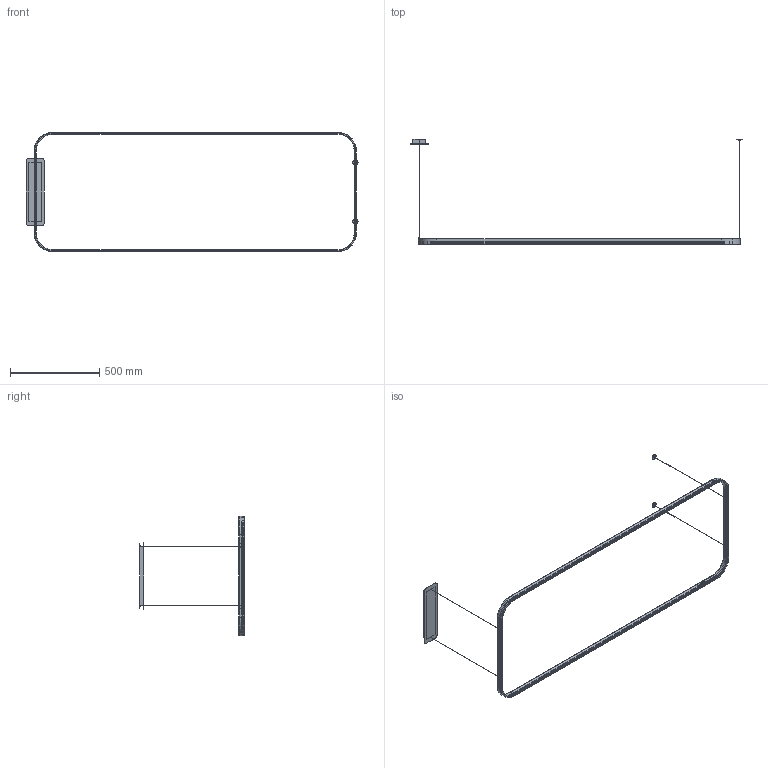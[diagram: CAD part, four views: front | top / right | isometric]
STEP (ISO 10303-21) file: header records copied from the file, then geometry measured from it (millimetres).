
FILE_DESCRIPTION(/* description */ (''),/* implementation_level */ '2;1');
FILE_NAME(/* name */ 'LSLS18X.stp',/* time_stamp */ '2026-08-05T08:33:03+02:00',/* author */ (''),/* organization */ (''),/* preprocessor_version */ 'ST-DEVELOPER v20',/* originating_system */ 'SIEMENS PLM Software NX2412.4001',/* authorisation */ '');
FILE_SCHEMA (('AUTOMOTIVE_DESIGN { 1 0 10303 214 3 1 1 1 }'));
Length unit declared in the file: millimetre
Products named in the file (1): Assy_LAMPADA_sparam_objects
Bounding box: 1859.5 x 588 x 670 mm (x, y, z)
Volume: 1961458.9 mm3; surface area: 1065816.1 mm2
Topology: 25 solids, 25 shells, 878 faces, 2171 edges, 1346 vertices
Faces by surface type: cylinder 378, plane 335, torus 128, extrusion 20, cone 17
Full cylindrical faces by diameter (mm): 1 x4, 1.3 x3, 3.2 x4, 4.5 x2, 6 x3, 7 x4, 9.5 x2, 13 x2, 30 x2
Entity records: 32501 total; most frequent: CARTESIAN_POINT 11154, DIRECTION 4601, ORIENTED_EDGE 4342, EDGE_CURVE 2171, AXIS2_PLACEMENT_3D 1721, VERTEX_POINT 1346, VECTOR 1159, LINE 1139
